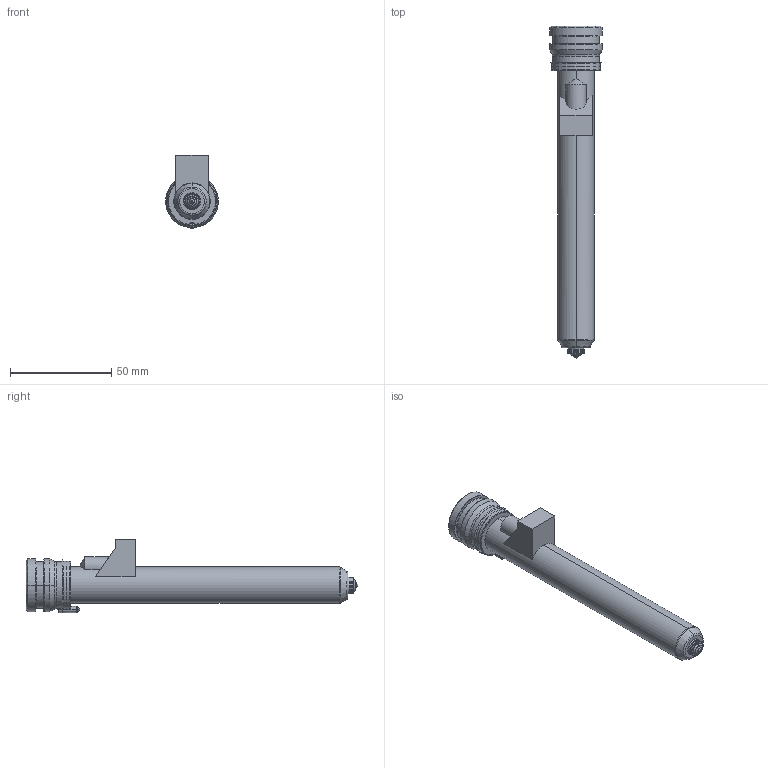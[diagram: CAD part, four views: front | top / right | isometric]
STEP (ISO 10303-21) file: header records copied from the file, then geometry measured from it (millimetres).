
FILE_DESCRIPTION((''),'2;1');
FILE_NAME('TH18146-M-1GLT-PK-JG','2023-12-14T',('umhib'),('Thermoplay S.p.A.'),'PRO/ENGINEER BY PARAMETRIC TECHNOLOGY CORPORATION, 2017170','PRO/ENGINEER BY PARAMETRIC TECHNOLOGY CORPORATION, 2017170','');
FILE_SCHEMA(('CONFIG_CONTROL_DESIGN'));
Length unit declared in the file: millimetre
Products named in the file (1): TH18146-M-1GLT-PK-JG
Bounding box: 26 x 164 x 36.1 mm (x, y, z)
Volume: 33290.3 mm3; surface area: 25406.5 mm2
Topology: 1 solids, 2 shells, 413 faces, 1052 edges, 647 vertices
Faces by surface type: cylinder 160, plane 92, cone 64, torus 64, bspline 22, sphere 9, extrusion 2
Entity records: 16927 total; most frequent: CARTESIAN_POINT 4929, DIRECTION 2166, ORIENTED_EDGE 2078, EDGE_CURVE 1041, AXIS2_PLACEMENT_3D 881, VERTEX_POINT 647, CIRCLE 491, EDGE_LOOP 441
